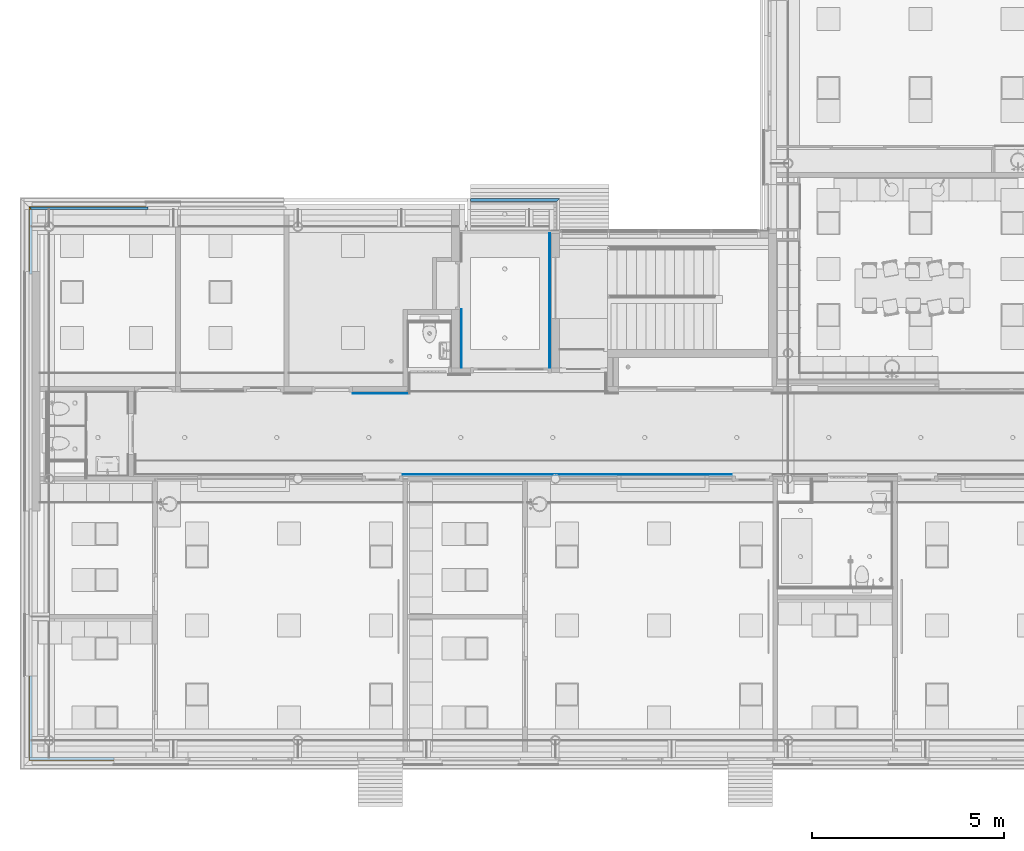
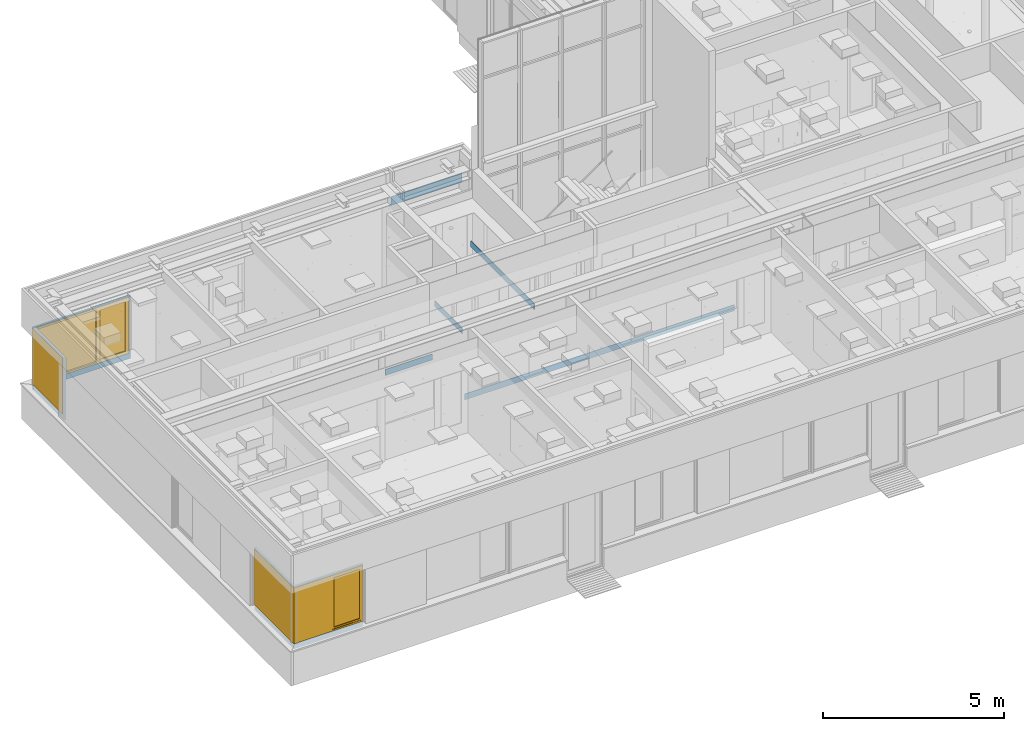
# One storey, part 24 of 347: 5 beams, 4 windows, 1 member, 4 openings, plus 3 elements that do not belong to this part.
"""IFC2X3 building model written with IfcOpenShell, lengths in millimetres."""

import ifcopenshell
import ifcopenshell.guid

model = None  # the IFC model being written
_history = None  # IfcOwnerHistory: only IFC2X3 demands one
_inside = {}  # id of a spatial element -> (the spatial element, [elements in it])
_under = {}  # id of a project, library or spatial element -> (it, [spatial elements below it])
_declared = {}  # id of a project -> (the project, [libraries it declares])
_typed = {}  # id of a type object -> (the type object, [elements of that type])
_made_of = {}  # id of a material, layer set ... -> (it, [elements and type objects made of it])


def new_model(schema):
    """Start an empty IFC model of exactly this schema.

    Asked for "IFC4X3", IfcOpenShell would pick the latest addendum, in which some entities
    have other attributes; the version numbers below select the first issue.
    IFC2X3 requires an IfcOwnerHistory on every rooted entity: one is made here for all.
    """
    global model, _history
    if schema == "IFC4X3":
        model = ifcopenshell.file(schema_version=(4, 3, 0, 0))
    else:
        model = ifcopenshell.file(schema=schema)
    _inside.clear()
    _under.clear()
    _declared.clear()
    _typed.clear()
    _made_of.clear()
    _history = None
    if model.schema == "IFC2X3":
        org = make("IfcOrganization", Name="unknown")
        user = make(
            "IfcPersonAndOrganization",
            ThePerson=make("IfcPerson", FamilyName="unknown"),
            TheOrganization=org,
        )
        app = make(
            "IfcApplication",
            ApplicationDeveloper=org,
            Version="unknown",
            ApplicationFullName="unknown",
            ApplicationIdentifier="unknown",
        )
        _history = make(
            "IfcOwnerHistory",
            OwningUser=user,
            OwningApplication=app,
            ChangeAction="ADDED",
            CreationDate=0,
        )
    return model


def make(cls, **values):
    """One entity of the class cls with the attributes given. An attribute that is None is left unset."""
    return model.create_entity(
        cls, **{name: value for name, value in values.items() if value is not None}
    )


def entity(cls, *values):
    """Any entity or typed value of the class cls, its attributes in the order of the schema. None: left unset."""
    e = model.create_entity(cls)
    for i, value in enumerate(values):
        if value is not None:
            e[i] = value
    return e


def rooted(cls, **values):
    """An entity with a GlobalId (a new one), such as an element, a storey or a relation."""
    return make(cls, GlobalId=ifcopenshell.guid.new(), OwnerHistory=_history, **values)


def si_unit(unit_type, name, prefix=None):
    """IfcSIUnit, for example si_unit("LENGTHUNIT", "METRE", prefix="MILLI")."""
    return make("IfcSIUnit", UnitType=unit_type, Prefix=prefix, Name=name)


def converted_unit(unit_type, name, factor, base, dimensions=None, offset=None):
    """IfcConversionBasedUnit, such as the inch: factor (a typed value) times the base unit."""
    return make(
        "IfcConversionBasedUnit"
        if offset is None
        else "IfcConversionBasedUnitWithOffset",
        ConversionOffset=offset,
        Dimensions=None
        if dimensions is None
        else entity("IfcDimensionalExponents", *dimensions),
        UnitType=unit_type,
        Name=name,
        ConversionFactor=make(
            "IfcMeasureWithUnit", ValueComponent=factor, UnitComponent=base
        ),
    )


def derived_unit(unit_type, elements):
    """IfcDerivedUnit: a product of units, each with its exponent."""
    return make(
        "IfcDerivedUnit",
        Elements=[
            make("IfcDerivedUnitElement", Unit=unit, Exponent=power)
            for unit, power in elements
        ],
        UnitType=unit_type,
    )


def money_unit(currency):
    """IfcMonetaryUnit."""
    return make("IfcMonetaryUnit", Currency=currency)


def assignment(units):
    """IfcUnitAssignment: the units of a project."""
    return None if units is None else make("IfcUnitAssignment", Units=units)


def point(xyz):
    """IfcCartesianPoint."""
    return None if xyz is None else make("IfcCartesianPoint", Coordinates=xyz)


def direction(xyz):
    """IfcDirection."""
    return None if xyz is None else make("IfcDirection", DirectionRatios=xyz)


def frame(location, z_axis=None, x_axis=None):
    """IfcAxis2Placement3D, a coordinate frame: its origin and axes. An axis left out is left unset."""
    return make(
        "IfcAxis2Placement3D",
        Location=point(location),
        Axis=direction(z_axis),
        RefDirection=direction(x_axis),
    )


def origin_with_axes():
    """The frame at (0, 0, 0) with the z axis (0, 0, 1) and the x axis (1, 0, 0) written out."""
    return frame((0.0, 0.0, 0.0), z_axis=(0.0, 0.0, 1.0), x_axis=(1.0, 0.0, 0.0))


def place(relative_to, where):
    """IfcLocalPlacement: puts the frame where relative to a parent placement (None: the world)."""
    return make(
        "IfcLocalPlacement", PlacementRelTo=relative_to, RelativePlacement=where
    )


def context(
    kind, dimensions, precision=None, world=None, true_north=None, identifier=None
):
    """IfcGeometricRepresentationContext, for example the 3D "Model" context."""
    return make(
        "IfcGeometricRepresentationContext",
        ContextIdentifier=identifier,
        ContextType=kind,
        CoordinateSpaceDimension=dimensions,
        Precision=precision,
        WorldCoordinateSystem=world,
        TrueNorth=true_north,
    )


def subcontext(parent, identifier, kind, view, scale=None):
    """IfcGeometricRepresentationSubContext, for example "Body" below "Model"."""
    return make(
        "IfcGeometricRepresentationSubContext",
        ContextIdentifier=identifier,
        ContextType=kind,
        ParentContext=parent,
        TargetScale=scale,
        TargetView=view,
    )


def project(units=None, contexts=None):
    """IfcProject with its units and contexts."""
    return rooted(
        "IfcProject",
        Name="project",
        RepresentationContexts=contexts,
        UnitsInContext=assignment(units),
    )


def spatial(cls, under=None, at=None, **own):
    """A site, building, storey or space (cls), placed at a placement, below another one or the project."""
    s = rooted(cls, ObjectPlacement=at, **own)
    if under is not None:
        _under.setdefault(under.id(), (under, []))[1].append(s)
    return s


def faces_of(points, faces, orient=None, outer=None):
    """IfcFace entities. A face is a list of loops; a loop is a list of indices into points, from 0.

    orient and outer hold one flag for each loop. By default every Orientation is true, the
    first loop of a face is its IfcFaceOuterBound and the others are IfcFaceBound.
    """
    made = []
    for i, loops in enumerate(faces):
        bounds = []
        for j, loop in enumerate(loops):
            is_outer = j == 0 if outer is None else outer[i][j]
            bounds.append(
                make(
                    "IfcFaceOuterBound" if is_outer else "IfcFaceBound",
                    Bound=make("IfcPolyLoop", Polygon=[points[k] for k in loop]),
                    Orientation=True if orient is None else orient[i][j],
                )
            )
        made.append(make("IfcFace", Bounds=bounds))
    return made


def open_shell(faces, orient=None, outer=None):
    """The faces of one IfcOpenShell. surface_model builds it on its shared points."""
    return ("IfcOpenShell", faces, orient, outer)


def faceted_brep(points, faces, orient=None, outer=None, voids=None):
    """IfcFacetedBrep: a solid bounded by flat faces; with voids (closed shells), ...WithVoids."""
    shared = [point(p) for p in points]
    hull = make("IfcClosedShell", CfsFaces=faces_of(shared, faces, orient, outer))
    if voids is None:
        return make("IfcFacetedBrep", Outer=hull)
    return make(
        "IfcFacetedBrepWithVoids",
        Outer=hull,
        Voids=[
            make(cls, CfsFaces=faces_of(shared, fs, o, b)) for cls, fs, o, b in voids
        ],
    )


def surface_model(cls, points, shells):
    """IfcFaceBasedSurfaceModel or IfcShellBasedSurfaceModel (cls): surfaces that need not close."""
    shared = [point(p) for p in points]
    made = [make(c, CfsFaces=faces_of(shared, fs, o, b)) for c, fs, o, b in shells]
    if cls == "IfcFaceBasedSurfaceModel":
        return make(cls, FbsmFaces=made)
    return make(cls, SbsmBoundary=made)


def shape(context_of_items, identifier, shape_type, items):
    """IfcShapeRepresentation: the items that make up one representation, for example the "Body"."""
    return make(
        "IfcShapeRepresentation",
        ContextOfItems=context_of_items,
        RepresentationIdentifier=identifier,
        RepresentationType=shape_type,
        Items=items,
    )


def material(Name=None, Category=None):
    """IfcMaterial."""
    return make("IfcMaterial", Name=Name, Category=Category)


def made_of(thing, what):
    """Note that an element or type object is made of a material, layer set ...; save() writes the relation."""
    if what is not None:
        _made_of.setdefault(what.id(), (what, []))[1].append(thing)
    return thing


def type_object(cls, material=None, **own):
    """A type object (cls), such as IfcWallType, which elements share."""
    return made_of(rooted(cls, **own), material)


def element(
    cls,
    number,
    at=None,
    inside=None,
    cuts=None,
    type_object=None,
    material=None,
    context=None,
    identifier="Body",
    shape_type=None,
    held_by="IfcProductDefinitionShape",
    body=None,
    shapes=None,
    **own,
):
    """One element of the class cls, such as IfcWall. Its Tag is "e" and its number.

    at: its placement. inside: the storey or other place that contains it. cuts: it is an
    opening in that element (IfcRelVoidsElement). A single representation is given by context,
    identifier, shape_type and body (its items); several are given by shapes. held_by: the class
    of the entity that holds the representations. save() writes the other relations.
    """
    e = rooted(cls, Tag="e%d" % number, ObjectPlacement=at, **own)
    if body is not None:
        shapes = [shape(context, identifier, shape_type, body)]
    if shapes is not None:
        e.Representation = make(held_by, Representations=shapes)
    if inside is not None:
        _inside.setdefault(inside.id(), (inside, []))[1].append(e)
    if cuts is not None:
        rooted(
            "IfcRelVoidsElement", RelatingBuildingElement=cuts, RelatedOpeningElement=e
        )
    if type_object is not None:
        _typed.setdefault(type_object.id(), (type_object, []))[1].append(e)
    return made_of(e, material)


def fill(opening, filler):
    """IfcRelFillsElement: the door or window that sits in an opening."""
    return rooted(
        "IfcRelFillsElement",
        RelatingOpeningElement=opening,
        RelatedBuildingElement=filler,
    )


def aggregate(whole, parts):
    """IfcRelAggregates: a whole, such as a stair, and the parts it consists of."""
    return rooted("IfcRelAggregates", RelatingObject=whole, RelatedObjects=parts)


def save(model, path):
    """Write the relations noted so far, then the file.

    IfcRelAggregates (storeys below a building ...), IfcRelContainedInSpatialStructure (elements
    in a storey), IfcRelDefinesByType, IfcRelAssociatesMaterial and IfcRelDeclares: one each for
    every whole, place, type object, material and project.
    """
    for whole, parts in _under.values():
        aggregate(whole, parts)
    for where, things in _inside.values():
        rooted(
            "IfcRelContainedInSpatialStructure",
            RelatedElements=things,
            RelatingStructure=where,
        )
    for kind, things in _typed.values():
        rooted("IfcRelDefinesByType", RelatedObjects=things, RelatingType=kind)
    for what, things in _made_of.values():
        rooted("IfcRelAssociatesMaterial", RelatedObjects=things, RelatingMaterial=what)
    for by, libraries in _declared.values():
        rooted("IfcRelDeclares", RelatingContext=by, RelatedDefinitions=libraries)
    model.write(path)


model = new_model("IFC2X3")

# Units and contexts
model_context = context("Model", 3, precision=0.01, world=origin_with_axes(), true_north=direction((0.0, 1.0)))
plan_context = context("Plan", 3, precision=0.01, world=origin_with_axes(), true_north=direction((0.0, 1.0)))
body_context = subcontext(model_context, "Body", "Model", "MODEL_VIEW")
ifc_project = project(units=[si_unit("LENGTHUNIT", "METRE", prefix="MILLI"), si_unit("AREAUNIT", "SQUARE_METRE"), si_unit("VOLUMEUNIT", "CUBIC_METRE"), converted_unit("PLANEANGLEUNIT", "DEGREE", entity("IfcPlaneAngleMeasure", 0.0174532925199), si_unit("PLANEANGLEUNIT", "RADIAN"), dimensions=[0, 0, 0, 0, 0, 0, 0]), money_unit("EUR"), converted_unit("TIMEUNIT", "Year", entity("IfcTimeMeasure", 31556926.0), si_unit("TIMEUNIT", "SECOND"), dimensions=[0, 0, 1, 0, 0, 0, 0]), si_unit("MASSUNIT", "GRAM", prefix="KILO"), si_unit("THERMODYNAMICTEMPERATUREUNIT", "DEGREE_CELSIUS"), si_unit("LUMINOUSINTENSITYUNIT", "LUMEN"), si_unit("ENERGYUNIT", "JOULE", prefix="MEGA"), derived_unit("THERMALCONDUCTANCEUNIT", [(si_unit("POWERUNIT", "WATT"), 1), (si_unit("LENGTHUNIT", "METRE"), -1), (si_unit("THERMODYNAMICTEMPERATUREUNIT", "KELVIN"), -1)]), derived_unit("SPECIFICHEATCAPACITYUNIT", [(si_unit("ENERGYUNIT", "JOULE"), 1), (si_unit("MASSUNIT", "GRAM", prefix="KILO"), -1), (si_unit("THERMODYNAMICTEMPERATUREUNIT", "KELVIN"), -1)]), derived_unit("MASSDENSITYUNIT", [(si_unit("MASSUNIT", "GRAM", prefix="KILO"), 1), (si_unit("VOLUMEUNIT", "CUBIC_METRE"), -1)])], contexts=[model_context, plan_context])

# Site, building, storey
site_placement = place(None, origin_with_axes())
site = spatial("IfcSite", under=ifc_project, at=site_placement, Name="Site", CompositionType="ELEMENT")
building_placement = place(site_placement, origin_with_axes())
building = spatial("IfcBuilding", under=site, at=building_placement, Name="Naam gebouw", CompositionType="ELEMENT")
storey_placement = place(building_placement, origin_with_axes())
storey = spatial("IfcBuildingStorey", under=building, at=storey_placement, Name="begane grond", CompositionType="ELEMENT", Elevation=0.0)

# Member, opening, window
ifc_material_1 = material(Name="31 pui/kozijn")
member_type = type_object("IfcMemberType", Name="31 pui/kozijn 62", PredefinedType="MEMBER")
member_1_placement = place(storey_placement, frame((4850.0, 19150.0, 535.00000231), z_axis=(0.0, 0.0, 1.0), x_axis=(1.0, -2.403218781e-09, 0.0)))
member_1 = element("IfcMember", 1, at=member_1_placement, inside=storey, type_object=member_type, material=ifc_material_1, Name="21_31 buitenkozijn pui", ObjectType="MEMBER", context=body_context, shape_type="Brep", body=[
    faceted_brep([(-62.0, 61.999999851, 184.99999769), (2975.00271353, 62.0000071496, 184.99999769), (2975.00271353, 62.0000071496, 2064.99999769), (-62.0, 61.999999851, 2064.99999769), (-62.000000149, 61.999999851, 2100.0), (3024.99999985, 62.0000072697, 2100.0), (3024.99999985, 62.0000072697, 0.0), (-62.000000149, 61.999999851, 0.0), (0.0, 0.0, 184.99999769), (2975.00271367, 7.1495804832e-06, 184.99999769), (-62.0, -1.49000811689e-07, 184.99999769), (2975.00271367, 7.1495804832e-06, 2064.99999769), (0.0, 0.0, 2064.99999769), (-62.0, -1.49000811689e-07, 2064.99999769), (-62.0, -1.49000811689e-07, 2100.0), (3025.0, 7.26973681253e-06, 2100.0), (3025.0, 7.26973681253e-06, 0.0), (-62.0, -1.49000811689e-07, 0.0)], [[[0, 1, 2, 3, 4, 5, 6, 7]], [[8, 9, 1, 0, 10]], [[2, 1, 9, 11]], [[3, 2, 11, 12, 13]], [[3, 13, 14, 4]], [[4, 14, 15, 5]], [[15, 16, 6, 5]], [[17, 7, 6, 16]], [[10, 0, 7, 17]], [[9, 8, 10, 17, 16, 15, 14, 13, 12, 11]]]),
])
opening_1_placement = place(member_1_placement, frame((1487.50135684, 0.0, 184.99999769), z_axis=(0.0, 0.0, 1.0), x_axis=(1.0, 0.0, 0.0)))
opening_1 = element("IfcOpeningElement", 2, at=opening_1_placement, cuts=member_1, Name="31_merk-AH1", context=body_context, shape_type="Brep", body=[
    faceted_brep([(1487.50135652, 134.000003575, 0.0), (1487.50135652, 134.000003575, 1880.0), (1487.50135699, -61.9999964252, 1880.0), (1487.50135699, -61.9999964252, 0.0), (-1549.50135716, 133.999996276, 0.0), (-1549.50135716, 133.999996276, 1880.0), (-1549.50135699, 62.0, 1880.0), (-1425.50135326, -62.0000034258, 1880.0), (-1425.50135326, -62.0000034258, 0.0), (-1549.50135699, 62.0, 0.0)], [[[0, 1, 2, 3]], [[0, 4, 5, 1]], [[1, 5, 6, 7, 2]], [[3, 2, 7, 8]], [[4, 0, 3, 8, 9]], [[5, 4, 9, 6]], [[7, 6, 9, 8]]]),
])
window_style_1 = type_object("IfcWindowStyle", Name="Rnx horizontaal 25", ConstructionType="NOTDEFINED", OperationType="DOUBLE_PANEL_VERTICAL", ParameterTakesPrecedence=False, Sizeable=False)
window_1_placement = place(opening_1_placement, frame((1487.50135684, 0.0, 0.0), z_axis=(0.0, 0.0, 1.0), x_axis=(-1.0, 0.0, 0.0)))
window_1 = element("IfcWindow", 3, at=window_1_placement, inside=storey, type_object=window_style_1, Name="31_merk-AH1", ObjectType="WINDOW", OverallHeight=1880.0, OverallWidth=2975.0, context=body_context, shape_type="SurfaceModel", body=[
    faceted_brep([(54.000000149, -62.0000070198, 1826.0), (39.000000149, -62.0000070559, 1826.0), (39.0, -7.05585634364e-06, 1826.0), (0.0, -7.1495804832e-06, 1826.0), (1.73031367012e-07, -72.0000071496, 1826.0), (54.000000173, -72.0000070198, 1826.0), (54.000000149, -62.0000070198, 54.0), (39.000000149, -62.0000070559, 54.0), (39.0, -7.05585634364e-06, 54.0), (0.0, -7.1495804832e-06, 54.0), (1.73031367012e-07, -72.0000071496, 54.0), (54.000000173, -72.0000070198, 54.0)], [[[0, 1, 2, 3, 4, 5]], [[1, 0, 6, 7]], [[8, 2, 1, 7]], [[2, 8, 9, 3]], [[9, 10, 4, 3]], [[10, 11, 5, 4]], [[6, 0, 5, 11]], [[7, 6, 11, 10, 9, 8]]]),
    faceted_brep([(988.002713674, -4.77519535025e-06, 1826.0), (988.002713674, -4.77519535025e-06, 1841.0), (39.0, -7.05585634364e-06, 1841.0), (39.0, -7.05585634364e-06, 1826.0), (0.0, -7.1495804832e-06, 1826.0), (0.0, -7.1495804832e-06, 1880.0), (2975.00271367, 0.0, 1880.0), (2975.00271367, 0.0, 1826.0), (2926.00271367, -1.17758247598e-07, 1826.0), (1027.00271367, -4.68147121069e-06, 1826.0), (988.002713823, -62.0000047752, 1826.0), (988.002713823, -62.0000047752, 1841.0), (39.000000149, -62.0000070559, 1841.0), (39.000000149, -62.0000070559, 1826.0), (54.000000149, -62.0000070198, 1826.0), (54.000000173, -72.0000070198, 1826.0), (1.73031367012e-07, -72.0000071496, 1826.0), (1.73031367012e-07, -72.0000071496, 1880.0), (3047.00271385, -71.999999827, 1880.0), (3047.00271385, -71.999999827, 1826.0), (2926.00271385, -72.0000001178, 1826.0), (1027.00271385, -72.0000046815, 1826.0), (973.002713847, -72.0000048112, 1826.0), (973.002713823, -62.0000048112, 1826.0)], [[[0, 1, 2, 3, 4, 5, 6, 7, 8, 9]], [[1, 0, 10, 11]], [[2, 1, 11, 12]], [[3, 2, 12, 13]], [[13, 14, 15, 16, 4, 3]], [[4, 16, 17, 5]], [[5, 17, 18, 6]], [[7, 6, 18, 19]], [[19, 20, 8, 7]], [[8, 20, 21, 9]], [[10, 0, 9, 21, 22, 23]], [[14, 13, 12, 11, 10, 23]], [[14, 23, 22, 15]], [[16, 15, 22, 21, 20, 19, 18, 17]]]),
    faceted_brep([(54.000000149, -62.0000070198, 54.0), (39.000000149, -62.0000070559, 54.0), (39.0, -7.05585634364e-06, 54.0), (0.0, -7.1495804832e-06, 54.0), (1.73031367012e-07, -72.0000071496, 54.0), (54.000000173, -72.0000070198, 54.0), (973.002713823, -62.0000048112, 54.0), (988.002713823, -62.0000047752, 54.0), (988.002713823, -62.0000047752, 39.0), (39.000000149, -62.0000070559, 39.0), (39.0, -7.05585634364e-06, 39.0), (988.002713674, -4.77519535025e-06, 39.0), (988.002713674, -4.77519535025e-06, 54.0), (1027.00271367, -4.68147121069e-06, 54.0), (2926.00271367, -1.17758247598e-07, 54.0), (2975.00271367, 0.0, 54.0), (2975.00271367, 0.0, 0.0), (0.0, -7.1495804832e-06, 0.0), (1.73031367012e-07, -72.0000071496, 0.0), (1027.00271385, -72.0000046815, 54.0), (973.002713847, -72.0000048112, 54.0), (3047.00271385, -71.999999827, 0.0), (3047.00271385, -71.999999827, 54.0), (2926.00271385, -72.0000001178, 54.0)], [[[0, 1, 2, 3, 4, 5]], [[1, 0, 6, 7, 8, 9]], [[10, 2, 1, 9]], [[11, 12, 13, 14, 15, 16, 17, 3, 2, 10]], [[17, 18, 4, 3]], [[19, 20, 5, 4, 18, 21, 22, 23]], [[6, 0, 5, 20]], [[7, 6, 20, 19, 13, 12]], [[7, 12, 11, 8]], [[11, 10, 9, 8]], [[13, 19, 23, 14]], [[14, 23, 22, 15]], [[16, 15, 22, 21]], [[21, 18, 17, 16]]]),
    faceted_brep([(988.002713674, -4.77519535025e-06, 1826.0), (988.002713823, -62.0000047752, 1826.0), (973.002713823, -62.0000048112, 1826.0), (973.002713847, -72.0000048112, 1826.0), (1027.00271385, -72.0000046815, 1826.0), (1027.00271367, -4.68147121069e-06, 1826.0), (988.002713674, -4.77519535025e-06, 54.0), (988.002713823, -62.0000047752, 54.0), (973.002713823, -62.0000048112, 54.0), (973.002713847, -72.0000048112, 54.0), (1027.00271385, -72.0000046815, 54.0), (1027.00271367, -4.68147121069e-06, 54.0)], [[[0, 1, 2, 3, 4, 5]], [[1, 0, 6, 7]], [[8, 2, 1, 7]], [[2, 8, 9, 3]], [[3, 9, 10, 4]], [[5, 4, 10, 11]], [[6, 0, 5, 11]], [[7, 6, 11, 10, 9, 8]]]),
    faceted_brep([(2926.00271385, -72.0000001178, 54.0), (2926.00271385, -72.0000001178, 1826.0), (2926.00271367, -1.17758247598e-07, 1826.0), (2926.00271367, -1.17758247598e-07, 54.0), (3047.00271385, -71.999999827, 54.0), (3047.00271385, -71.999999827, 1826.0), (2975.00271367, 0.0, 1826.0), (2975.00271367, 0.0, 54.0)], [[[0, 1, 2, 3]], [[1, 0, 4, 5]], [[6, 2, 1, 5]], [[2, 6, 7, 3]], [[4, 0, 3, 7]], [[7, 6, 5, 4]]]),
    surface_model("IfcShellBasedSurfaceModel", [(2926.00271385, -72.0000001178, 54.0), (2926.00271385, -72.0000001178, 1826.0), (1027.00271385, -72.0000046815, 1826.0), (1027.00271385, -72.0000046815, 54.0)], [open_shell([[[0, 1, 2, 3]]])]),
    surface_model("IfcShellBasedSurfaceModel", [(2926.0027138, -52.0000001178, 54.0), (1027.0027138, -52.0000046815, 54.0), (1027.0027138, -52.0000046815, 1826.0), (2926.0027138, -52.0000001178, 1826.0)], [open_shell([[[0, 1, 2, 3]]])]),
    faceted_brep([(920.002713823, -62.0000049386, 1773.0), (988.002713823, -62.0000047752, 1773.0), (988.002713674, -4.77519535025e-06, 1773.0), (920.002713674, -4.93861307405e-06, 1773.0), (920.002713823, -62.0000049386, 107.0), (988.002713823, -62.0000047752, 107.0), (988.002713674, -4.77519535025e-06, 107.0), (920.002713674, -4.93861307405e-06, 107.0)], [[[0, 1, 2, 3]], [[0, 4, 5, 1]], [[1, 5, 6, 2]], [[3, 2, 6, 7]], [[4, 0, 3, 7]], [[5, 4, 7, 6]]]),
    faceted_brep([(107.000000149, -62.0000068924, 107.0), (39.000000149, -62.0000070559, 107.0), (39.0, -7.05585634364e-06, 107.0), (107.0, -6.89243861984e-06, 107.0), (107.000000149, -62.0000068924, 1773.0), (39.000000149, -62.0000070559, 1773.0), (39.0, -7.05585634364e-06, 1773.0), (107.0, -6.89243861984e-06, 1773.0)], [[[0, 1, 2, 3]], [[0, 4, 5, 1]], [[1, 5, 6, 2]], [[3, 2, 6, 7]], [[4, 0, 3, 7]], [[5, 4, 7, 6]]]),
    faceted_brep([(39.000000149, -62.0000070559, 39.0), (39.000000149, -62.0000070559, 107.0), (39.0, -7.05585634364e-06, 107.0), (39.0, -7.05585634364e-06, 39.0), (988.002713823, -62.0000047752, 39.0), (988.002713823, -62.0000047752, 107.0), (920.002713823, -62.0000049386, 107.0), (107.000000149, -62.0000068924, 107.0), (107.0, -6.89243861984e-06, 107.0), (920.002713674, -4.93861307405e-06, 107.0), (988.002713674, -4.77519535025e-06, 107.0), (988.002713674, -4.77519535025e-06, 39.0)], [[[0, 1, 2, 3]], [[0, 4, 5, 6, 7, 1]], [[1, 7, 8, 2]], [[3, 2, 8, 9, 10, 11]], [[4, 0, 3, 11]], [[5, 4, 11, 10]], [[6, 5, 10, 9]], [[7, 6, 9, 8]]]),
    faceted_brep([(988.002713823, -62.0000047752, 1841.0), (988.002713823, -62.0000047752, 1773.0), (988.002713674, -4.77519535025e-06, 1773.0), (988.002713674, -4.77519535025e-06, 1841.0), (39.000000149, -62.0000070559, 1841.0), (39.000000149, -62.0000070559, 1773.0), (107.000000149, -62.0000068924, 1773.0), (920.002713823, -62.0000049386, 1773.0), (920.002713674, -4.93861307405e-06, 1773.0), (107.0, -6.89243861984e-06, 1773.0), (39.0, -7.05585634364e-06, 1773.0), (39.0, -7.05585634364e-06, 1841.0)], [[[0, 1, 2, 3]], [[0, 4, 5, 6, 7, 1]], [[1, 7, 8, 2]], [[3, 2, 8, 9, 10, 11]], [[4, 0, 3, 11]], [[5, 4, 11, 10]], [[6, 5, 10, 9]], [[7, 6, 9, 8]]]),
    surface_model("IfcShellBasedSurfaceModel", [(920.002713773, -41.0000049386, 107.0), (920.002713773, -41.0000049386, 1773.0), (107.000000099, -41.0000068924, 1773.0), (107.000000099, -41.0000068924, 107.0)], [open_shell([[[0, 1, 2, 3]]])]),
    surface_model("IfcShellBasedSurfaceModel", [(920.002713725, -21.0000049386, 107.0), (107.00000005, -21.0000068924, 107.0), (107.00000005, -21.0000068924, 1773.0), (920.002713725, -21.0000049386, 1773.0)], [open_shell([[[0, 1, 2, 3]]])]),
])
fill(opening_1, window_1)

member_2_placement = place(storey_placement, frame((4850.0, 19150.0, 535.00000231), z_axis=(0.0, 0.0, 1.0), x_axis=(0.0, -1.0, 0.0)))
member_2 = element("IfcMember", 4, at=member_2_placement, inside=storey, type_object=member_type, material=ifc_material_1, Name="21_31 buitenkozijn pui", ObjectType="MEMBER", context=body_context, shape_type="Brep", body=[
    faceted_brep([(1625.00000335, 0.0, 184.99999769), (1625.00000335, 0.0, 2064.99999769), (0.0, 0.0, 2064.99999769), (0.0, 0.0, 2100.0), (1687.00000335, 0.0, 2100.0), (1687.00000335, 0.0, 0.0), (0.0, 0.0, 0.0), (0.0, 0.0, 184.99999769), (1625.00000335, -62.0, 184.99999769), (1625.00000335, -62.0, 2064.99999769), (-1.49000811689e-07, -62.0, 2064.99999769), (-1.49000811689e-07, -62.0, 2100.0), (1687.00000335, -62.0, 2100.0), (1687.00000335, -62.0, 0.0), (-1.49000811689e-07, -62.0, 0.0), (-1.49000811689e-07, -62.0, 184.99999769)], [[[0, 1, 2, 3, 4, 5, 6, 7]], [[1, 0, 8, 9]], [[10, 2, 1, 9]], [[2, 10, 11, 3]], [[3, 11, 12, 4]], [[5, 4, 12, 13]], [[14, 6, 5, 13]], [[15, 7, 6, 14]], [[0, 7, 15, 8]], [[8, 15, 14, 13, 12, 11, 10, 9]]]),
])
opening_2_placement = place(member_2_placement, frame((812.500001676, 0.0, 184.99999769), z_axis=(0.0, 0.0, 1.0), x_axis=(1.0, 0.0, 0.0)))
opening_2 = element("IfcOpeningElement", 5, at=opening_2_placement, cuts=member_2, Name="31_merk-AH2", context=body_context, shape_type="Brep", body=[
    faceted_brep([(-874.500001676, -134.0, 0.0), (-874.500001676, -134.0, 1880.0), (-874.500001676, -61.999999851, 1880.0), (-874.500001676, -61.999999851, 0.0), (812.500001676, -134.0, 0.0), (812.500001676, -134.0, 1880.0), (812.500001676, 62.0, 1880.0), (-750.500001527, 62.0, 1880.0), (-750.500001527, 62.0, 0.0), (812.500001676, 62.0, 0.0)], [[[0, 1, 2, 3]], [[0, 4, 5, 1]], [[1, 5, 6, 7, 2]], [[7, 8, 3, 2]], [[4, 0, 3, 8, 9]], [[5, 4, 9, 6]], [[7, 6, 9, 8]]]),
])
window_style_2 = type_object("IfcWindowStyle", Name="R1 25", ConstructionType="NOTDEFINED", OperationType="SINGLE_PANEL", ParameterTakesPrecedence=False, Sizeable=False)
window_2_placement = place(opening_2_placement, frame((-812.500001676, 0.0, 0.0), z_axis=(0.0, 0.0, 1.0), x_axis=(1.0, 0.0, 0.0)))
window_2 = element("IfcWindow", 6, at=window_2_placement, inside=storey, type_object=window_style_2, Name="31_merk-AH2", ObjectType="WINDOW", OverallHeight=1880.0, OverallWidth=1625.0, context=body_context, shape_type="SurfaceModel", body=[
    faceted_brep([(1571.00000335, -72.0, 1826.0), (1625.00000335, -72.0, 1826.0), (1625.00000335, 0.0, 1826.0), (1571.00000335, 0.0, 1826.0), (1571.00000335, -72.0, 54.0), (1625.00000335, -72.0, 54.0), (1625.00000335, 0.0, 54.0), (1571.00000335, 0.0, 54.0)], [[[0, 1, 2, 3]], [[0, 4, 5, 1]], [[1, 5, 6, 2]], [[3, 2, 6, 7]], [[4, 0, 3, 7]], [[5, 4, 7, 6]]]),
    faceted_brep([(-72.0, -72.0, 1826.0), (-72.0, -72.0, 54.0), (49.0, -72.0, 54.0), (49.0, -72.0, 1826.0), (0.0, 0.0, 1826.0), (0.0, 0.0, 54.0), (49.0, 0.0, 54.0), (49.0, 0.0, 1826.0)], [[[0, 1, 2, 3]], [[1, 0, 4, 5]], [[1, 5, 6, 2]], [[3, 2, 6, 7]], [[4, 0, 3, 7]], [[6, 5, 4, 7]]]),
    faceted_brep([(0.0, 0.0, 0.0), (-72.0, -72.0, 0.0), (-72.0, -72.0, 54.0), (0.0, 0.0, 54.0), (1625.00000335, 0.0, 0.0), (1625.00000335, -72.0, 0.0), (1625.00000335, -72.0, 54.0), (1571.00000335, -72.0, 54.0), (49.0, -72.0, 54.0), (49.0, 0.0, 54.0), (1571.00000335, 0.0, 54.0), (1625.00000335, 0.0, 54.0)], [[[0, 1, 2, 3]], [[1, 0, 4, 5]], [[2, 1, 5, 6, 7, 8]], [[9, 3, 2, 8]], [[0, 3, 9, 10, 11, 4]], [[6, 5, 4, 11]], [[7, 6, 11, 10]], [[8, 7, 10, 9]]]),
    faceted_brep([(0.0, 0.0, 1826.0), (49.0, 0.0, 1826.0), (49.0, -72.0, 1826.0), (-72.0, -72.0, 1826.0), (0.0, 0.0, 1880.0), (1625.00000335, 0.0, 1880.0), (1625.00000335, 0.0, 1826.0), (1571.00000335, 0.0, 1826.0), (1571.00000335, -72.0, 1826.0), (1625.00000335, -72.0, 1826.0), (1625.00000335, -72.0, 1880.0), (-72.0, -72.0, 1880.0)], [[[0, 1, 2, 3]], [[1, 0, 4, 5, 6, 7]], [[8, 2, 1, 7]], [[3, 2, 8, 9, 10, 11]], [[0, 3, 11, 4]], [[4, 11, 10, 5]], [[10, 9, 6, 5]], [[8, 7, 6, 9]]]),
    surface_model("IfcShellBasedSurfaceModel", [(1571.00000335, -72.0, 54.0), (1571.00000335, -72.0, 1826.0), (49.0, -72.0, 1826.0), (49.0, -72.0, 54.0)], [open_shell([[[0, 1, 2, 3]]])]),
    surface_model("IfcShellBasedSurfaceModel", [(1571.00000335, -52.0, 54.0), (49.0, -52.0, 54.0), (49.0, -52.0, 1826.0), (1571.00000335, -52.0, 1826.0)], [open_shell([[[0, 1, 2, 3]]])]),
])
fill(opening_2, window_2)

member_3_placement = place(storey_placement, frame((4850.0, 4850.0, 535.00000231), z_axis=(0.0, 0.0, 1.0), x_axis=(1.0, 0.0, 0.0)))
member_3 = element("IfcMember", 7, at=member_3_placement, inside=storey, type_object=member_type, material=ifc_material_1, Name="21_31 buitenkozijn pui", ObjectType="MEMBER", context=body_context, shape_type="Brep", body=[
    faceted_brep([(0.0, 0.0, 184.99999769), (2138.0, 0.0, 184.99999769), (2138.0, 0.0, 0.0), (-62.0, 0.0, 0.0), (-62.0, 0.0, 184.99999769), (-62.0, -62.0, 184.99999769), (2138.0, -62.0, 184.99999769), (2138.0, -62.0, 0.0), (-62.0, -62.0, 0.0)], [[[0, 1, 2, 3, 4]], [[5, 6, 1, 0, 4]], [[1, 6, 7, 2]], [[8, 3, 2, 7]], [[5, 4, 3, 8]], [[6, 5, 8, 7]]]),
    faceted_brep([(2138.0, -62.0, 2064.99999769), (2138.0, 0.0, 2064.99999769), (2138.0, 0.0, 2100.0), (2138.0, -62.0, 2100.0), (0.0, 0.0, 2064.99999769), (-62.0, -62.0, 2064.99999769), (-62.0, 0.0, 2064.99999769), (-62.0, 0.0, 2100.0), (-62.0, -62.0, 2100.0)], [[[0, 1, 2, 3]], [[4, 1, 0, 5, 6]], [[1, 4, 6, 7, 2]], [[7, 8, 3, 2]], [[5, 0, 3, 8]], [[6, 5, 8, 7]]]),
])
opening_3_placement = place(member_3_placement, frame((1069.0, 0.0, 184.99999769), z_axis=(0.0, 0.0, 1.0), x_axis=(1.0, 0.0, 0.0)))
opening_3 = element("IfcOpeningElement", 8, at=opening_3_placement, cuts=member_3, Name="31_merk-AE2", context=body_context, shape_type="Brep", body=[
    faceted_brep([(1069.0, 62.0, 0.0), (1069.0, 62.0, 1880.0), (1069.0, -134.0, 1880.0), (1069.0, -134.0, 0.0), (-1007.0, 62.0, 0.0), (-1007.0, 62.0, 1880.0), (-1131.0, -62.0, 1880.0), (-1131.0, -134.0, 1880.0), (-1131.0, -134.0, 0.0), (-1131.0, -62.0, 0.0)], [[[0, 1, 2, 3]], [[0, 4, 5, 1]], [[1, 5, 6, 7, 2]], [[3, 2, 7, 8]], [[4, 0, 3, 8, 9]], [[5, 4, 9, 6]], [[9, 8, 7, 6]]]),
])
window_style_3 = type_object("IfcWindowStyle", Name="Rnx horizontaal 25", ConstructionType="NOTDEFINED", OperationType="DOUBLE_PANEL_VERTICAL", ParameterTakesPrecedence=False, Sizeable=False)
window_3_placement = place(opening_3_placement, frame((-1069.0, 0.0, 0.0), z_axis=(0.0, 0.0, 1.0), x_axis=(1.0, 0.0, 0.0)))
window_3 = element("IfcWindow", 9, at=window_3_placement, inside=storey, type_object=window_style_3, Name="31_merk-AE2", ObjectType="WINDOW", OverallHeight=1880.0, OverallWidth=2138.0, context=body_context, shape_type="SurfaceModel", body=[
    faceted_brep([(2084.0, -62.0, 1826.0), (2084.0, -72.0, 1826.0), (2138.0, -72.0, 1826.0), (2138.0, 0.0, 1826.0), (2099.0, 0.0, 1826.0), (2099.0, -62.0, 1826.0), (2084.0, -62.0, 54.0), (2084.0, -72.0, 54.0), (2138.0, -72.0, 54.0), (2138.0, 0.0, 54.0), (2099.0, 0.0, 54.0), (2099.0, -62.0, 54.0)], [[[0, 1, 2, 3, 4, 5]], [[6, 7, 1, 0]], [[8, 2, 1, 7]], [[9, 3, 2, 8]], [[4, 3, 9, 10]], [[10, 11, 5, 4]], [[5, 11, 6, 0]], [[11, 10, 9, 8, 7, 6]]]),
    faceted_brep([(1150.0, 0.0, 1826.0), (1111.0, 0.0, 1826.0), (49.0, 0.0, 1826.0), (0.0, 0.0, 1826.0), (0.0, 0.0, 1880.0), (2138.0, 0.0, 1880.0), (2138.0, 0.0, 1826.0), (2099.0, 0.0, 1826.0), (2099.0, 0.0, 1841.0), (1150.0, 0.0, 1841.0), (1150.0, -62.0, 1826.0), (1165.0, -62.0, 1826.0), (1165.0, -72.0, 1826.0), (1111.0, -72.0, 1826.0), (49.0, -72.0, 1826.0), (-72.0, -72.0, 1826.0), (-72.0, -72.0, 1880.0), (2138.0, -72.0, 1880.0), (2138.0, -72.0, 1826.0), (2099.0, -62.0, 1826.0), (2084.0, -72.0, 1826.0), (2084.0, -62.0, 1826.0), (2099.0, -62.0, 1841.0), (1150.0, -62.0, 1841.0)], [[[0, 1, 2, 3, 4, 5, 6, 7, 8, 9]], [[10, 11, 12, 13, 1, 0]], [[2, 1, 13, 14]], [[15, 3, 2, 14]], [[3, 15, 16, 4]], [[5, 4, 16, 17]], [[6, 5, 17, 18]], [[19, 7, 6, 18, 20, 21]], [[7, 19, 22, 8]], [[8, 22, 23, 9]], [[9, 23, 10, 0]], [[21, 11, 10, 23, 22, 19]], [[21, 20, 12, 11]], [[18, 17, 16, 15, 14, 13, 12, 20]]]),
    faceted_brep([(2084.0, -62.0, 54.0), (2084.0, -72.0, 54.0), (2138.0, -72.0, 54.0), (2138.0, 0.0, 54.0), (2099.0, 0.0, 54.0), (2099.0, -62.0, 54.0), (1165.0, -62.0, 54.0), (1165.0, -72.0, 54.0), (1111.0, -72.0, 54.0), (49.0, -72.0, 54.0), (-72.0, -72.0, 54.0), (-72.0, -72.0, 0.0), (2138.0, -72.0, 0.0), (2138.0, 0.0, 0.0), (1150.0, 0.0, 39.0), (2099.0, 0.0, 39.0), (0.0, 0.0, 0.0), (0.0, 0.0, 54.0), (49.0, 0.0, 54.0), (1111.0, 0.0, 54.0), (1150.0, 0.0, 54.0), (2099.0, -62.0, 39.0), (1150.0, -62.0, 39.0), (1150.0, -62.0, 54.0)], [[[0, 1, 2, 3, 4, 5]], [[6, 7, 1, 0]], [[8, 9, 10, 11, 12, 2, 1, 7]], [[13, 3, 2, 12]], [[14, 15, 4, 3, 13, 16, 17, 18, 19, 20]], [[15, 21, 5, 4]], [[5, 21, 22, 23, 6, 0]], [[23, 20, 19, 8, 7, 6]], [[19, 18, 9, 8]], [[18, 17, 10, 9]], [[16, 11, 10, 17]], [[11, 16, 13, 12]], [[14, 22, 21, 15]], [[23, 22, 14, 20]]]),
    faceted_brep([(1150.0, 0.0, 1826.0), (1111.0, 0.0, 1826.0), (1111.0, -72.0, 1826.0), (1165.0, -72.0, 1826.0), (1165.0, -62.0, 1826.0), (1150.0, -62.0, 1826.0), (1150.0, 0.0, 54.0), (1111.0, 0.0, 54.0), (1111.0, -72.0, 54.0), (1165.0, -72.0, 54.0), (1165.0, -62.0, 54.0), (1150.0, -62.0, 54.0)], [[[0, 1, 2, 3, 4, 5]], [[6, 7, 1, 0]], [[1, 7, 8, 2]], [[3, 2, 8, 9]], [[4, 3, 9, 10]], [[10, 11, 5, 4]], [[5, 11, 6, 0]], [[11, 10, 9, 8, 7, 6]]]),
    faceted_brep([(-72.0, -72.0, 1826.0), (-72.0, -72.0, 54.0), (49.0, -72.0, 54.0), (49.0, -72.0, 1826.0), (0.0, 0.0, 1826.0), (0.0, 0.0, 54.0), (49.0, 0.0, 54.0), (49.0, 0.0, 1826.0)], [[[0, 1, 2, 3]], [[1, 0, 4, 5]], [[1, 5, 6, 2]], [[3, 2, 6, 7]], [[4, 0, 3, 7]], [[4, 7, 6, 5]]]),
    surface_model("IfcShellBasedSurfaceModel", [(49.0, -72.0, 54.0), (1111.0, -72.0, 54.0), (1111.0, -72.0, 1826.0), (49.0, -72.0, 1826.0)], [open_shell([[[0, 1, 2, 3]]])]),
    surface_model("IfcShellBasedSurfaceModel", [(49.0, -52.0, 54.0), (49.0, -52.0, 1826.0), (1111.0, -52.0, 1826.0), (1111.0, -52.0, 54.0)], [open_shell([[[0, 1, 2, 3]]])]),
    faceted_brep([(1218.0, -62.0, 1773.0), (1218.0, 0.0, 1773.0), (1150.0, 0.0, 1773.0), (1150.0, -62.0, 1773.0), (1218.0, -62.0, 107.0), (1218.0, 0.0, 107.0), (1150.0, 0.0, 107.0), (1150.0, -62.0, 107.0)], [[[0, 1, 2, 3]], [[4, 5, 1, 0]], [[1, 5, 6, 2]], [[3, 2, 6, 7]], [[0, 3, 7, 4]], [[7, 6, 5, 4]]]),
    faceted_brep([(2031.0, -62.0, 107.0), (2031.0, 0.0, 107.0), (2099.0, 0.0, 107.0), (2099.0, -62.0, 107.0), (2031.0, -62.0, 1773.0), (2031.0, 0.0, 1773.0), (2099.0, 0.0, 1773.0), (2099.0, -62.0, 1773.0)], [[[0, 1, 2, 3]], [[4, 5, 1, 0]], [[1, 5, 6, 2]], [[3, 2, 6, 7]], [[0, 3, 7, 4]], [[7, 6, 5, 4]]]),
    faceted_brep([(2099.0, -62.0, 39.0), (2099.0, 0.0, 39.0), (2099.0, 0.0, 107.0), (2099.0, -62.0, 107.0), (1150.0, -62.0, 39.0), (1150.0, 0.0, 39.0), (1150.0, 0.0, 107.0), (1218.0, 0.0, 107.0), (2031.0, 0.0, 107.0), (2031.0, -62.0, 107.0), (1218.0, -62.0, 107.0), (1150.0, -62.0, 107.0)], [[[0, 1, 2, 3]], [[4, 5, 1, 0]], [[1, 5, 6, 7, 8, 2]], [[3, 2, 8, 9]], [[0, 3, 9, 10, 11, 4]], [[11, 6, 5, 4]], [[10, 7, 6, 11]], [[9, 8, 7, 10]]]),
    faceted_brep([(1150.0, -62.0, 1841.0), (1150.0, 0.0, 1841.0), (1150.0, 0.0, 1773.0), (1150.0, -62.0, 1773.0), (2099.0, -62.0, 1841.0), (2099.0, 0.0, 1841.0), (2099.0, 0.0, 1773.0), (2031.0, 0.0, 1773.0), (1218.0, 0.0, 1773.0), (1218.0, -62.0, 1773.0), (2031.0, -62.0, 1773.0), (2099.0, -62.0, 1773.0)], [[[0, 1, 2, 3]], [[4, 5, 1, 0]], [[1, 5, 6, 7, 8, 2]], [[3, 2, 8, 9]], [[0, 3, 9, 10, 11, 4]], [[11, 6, 5, 4]], [[10, 7, 6, 11]], [[9, 8, 7, 10]]]),
    surface_model("IfcShellBasedSurfaceModel", [(1218.0, -41.0, 107.0), (2031.0, -41.0, 107.0), (2031.0, -41.0, 1773.0), (1218.0, -41.0, 1773.0)], [open_shell([[[0, 1, 2, 3]]])]),
    surface_model("IfcShellBasedSurfaceModel", [(1218.0, -21.0, 107.0), (1218.0, -21.0, 1773.0), (2031.0, -21.0, 1773.0), (2031.0, -21.0, 107.0)], [open_shell([[[0, 1, 2, 3]]])]),
])
fill(opening_3, window_3)

member_4_placement = place(storey_placement, frame((4850.0, 4850.0, 535.00000231), z_axis=(0.0, 0.0, 1.0), x_axis=(0.0, 1.0, 0.0)))
member_4 = element("IfcMember", 10, at=member_4_placement, inside=storey, type_object=member_type, material=ifc_material_1, Name="21_31 buitenkozijn pui", ObjectType="MEMBER", context=body_context, shape_type="Brep", body=[
    faceted_brep([(2125.00002887, 62.0, 184.99999769), (2125.00002887, 0.0, 184.99999769), (2125.00002887, 0.0, 0.0), (2125.00002887, 62.0, 0.0), (0.0, 0.0, 184.99999769), (0.0, 62.0, 184.99999769), (0.0, 0.0, 0.0), (0.0, 62.0, 0.0)], [[[0, 1, 2, 3]], [[4, 1, 0, 5]], [[1, 4, 6, 2]], [[6, 7, 3, 2]], [[5, 0, 3, 7]], [[4, 5, 7, 6]]]),
    faceted_brep([(0.0, 0.0, 2064.99999769), (2125.00002887, 0.0, 2064.99999769), (2125.00002887, 0.0, 2100.0), (0.0, 0.0, 2100.0), (2125.00002887, 62.0, 2064.99999769), (0.0, 62.0, 2064.99999769), (2125.00002887, 62.0, 2100.0), (0.0, 62.0, 2100.0)], [[[0, 1, 2, 3]], [[4, 1, 0, 5]], [[1, 4, 6, 2]], [[7, 3, 2, 6]], [[5, 0, 3, 7]], [[4, 5, 7, 6]]]),
])
opening_4_placement = place(member_4_placement, frame((1062.50001444, 0.0, 184.99999769), z_axis=(0.0, 0.0, 1.0), x_axis=(1.0, 0.0, 0.0)))
opening_4 = element("IfcOpeningElement", 11, at=opening_4_placement, cuts=member_4, Name="31_merk-AE1", context=body_context, shape_type="Brep", body=[
    faceted_brep([(-1124.50001444, 62.0, 1880.0), (-1124.50001444, 134.0, 1880.0), (-1124.50001444, 134.0, 0.0), (-1124.50001444, 62.0, 0.0), (-1000.50001444, -62.0, 1880.0), (1062.50001444, -62.0, 1880.0), (1062.50001444, 134.0, 1880.0), (1062.50001444, 134.0, 0.0), (1062.50001444, -62.0, 0.0), (-1000.50001444, -62.0, 0.0)], [[[0, 1, 2, 3]], [[4, 5, 6, 1, 0]], [[2, 1, 6, 7]], [[8, 9, 3, 2, 7]], [[4, 0, 3, 9]], [[9, 8, 5, 4]], [[5, 8, 7, 6]]]),
])
window_4_placement = place(opening_4_placement, frame((1062.50001444, 0.0, 0.0), z_axis=(0.0, 0.0, 1.0), x_axis=(-1.0, 0.0, 0.0)))
window_4 = element("IfcWindow", 12, at=window_4_placement, inside=storey, type_object=window_style_2, Name="31_merk-AE1", ObjectType="WINDOW", OverallHeight=1880.0, OverallWidth=2125.0, context=body_context, shape_type="SurfaceModel", body=[
    faceted_brep([(54.0, -72.0, 1826.0), (54.0, 0.0, 1826.0), (0.0, 0.0, 1826.0), (0.0, -72.0, 1826.0), (54.0, -72.0, 54.0), (54.0, 0.0, 54.0), (0.0, 0.0, 54.0), (0.0, -72.0, 54.0)], [[[0, 1, 2, 3]], [[4, 5, 1, 0]], [[1, 5, 6, 2]], [[3, 2, 6, 7]], [[0, 3, 7, 4]], [[7, 6, 5, 4]]]),
    faceted_brep([(2076.00002887, -72.0, 54.0), (2076.00002887, -72.0, 1826.0), (2076.00002887, 0.0, 1826.0), (2076.00002887, 0.0, 54.0), (2197.00002887, -72.0, 54.0), (2197.00002887, -72.0, 1826.0), (2125.00002887, 0.0, 1826.0), (2125.00002887, 0.0, 54.0)], [[[0, 1, 2, 3]], [[1, 0, 4, 5]], [[1, 5, 6, 2]], [[7, 3, 2, 6]], [[3, 7, 4, 0]], [[7, 6, 5, 4]]]),
    faceted_brep([(54.0, 0.0, 54.0), (0.0, 0.0, 54.0), (0.0, -72.0, 54.0), (54.0, -72.0, 54.0), (0.0, 0.0, 0.0), (2076.00002887, 0.0, 54.0), (2125.00002887, 0.0, 54.0), (2125.00002887, 0.0, 0.0), (0.0, -72.0, 0.0), (2197.00002887, -72.0, 0.0), (2197.00002887, -72.0, 54.0), (2076.00002887, -72.0, 54.0)], [[[0, 1, 2, 3]], [[4, 1, 0, 5, 6, 7]], [[4, 8, 2, 1]], [[2, 8, 9, 10, 11, 3]], [[3, 11, 5, 0]], [[6, 5, 11, 10]], [[9, 7, 6, 10]], [[8, 4, 7, 9]]]),
    faceted_brep([(0.0, 0.0, 1826.0), (54.0, 0.0, 1826.0), (54.0, -72.0, 1826.0), (0.0, -72.0, 1826.0), (0.0, 0.0, 1880.0), (2125.00002887, 0.0, 1880.0), (2125.00002887, 0.0, 1826.0), (2076.00002887, 0.0, 1826.0), (2076.00002887, -72.0, 1826.0), (2197.00002887, -72.0, 1826.0), (2197.00002887, -72.0, 1880.0), (0.0, -72.0, 1880.0)], [[[0, 1, 2, 3]], [[1, 0, 4, 5, 6, 7]], [[8, 2, 1, 7]], [[3, 2, 8, 9, 10, 11]], [[4, 0, 3, 11]], [[4, 11, 10, 5]], [[10, 9, 6, 5]], [[7, 6, 9, 8]]]),
    surface_model("IfcShellBasedSurfaceModel", [(54.0, -72.0, 54.0), (2076.00002887, -72.0, 54.0), (2076.00002887, -72.0, 1826.0), (54.0, -72.0, 1826.0)], [open_shell([[[0, 1, 2, 3]]])]),
    surface_model("IfcShellBasedSurfaceModel", [(54.0, -52.0, 54.0), (54.0, -52.0, 1826.0), (2076.00002887, -52.0, 1826.0), (2076.00002887, -52.0, 54.0)], [open_shell([[[0, 1, 2, 3]]])]),
])
fill(opening_4, window_4)

# Beams
ifc_material_2 = material(Name="Metaal - Staal C beige")
beam_type_1 = type_object("IfcBeamType", Name="21 geveldrager (3200+) 75 x 300", PredefinedType="LINTEL")
beam_1_placement = place(storey_placement, frame((16285.0000653, 19000.0, -600.0), z_axis=(0.0, 0.0, 1.0), x_axis=(0.0, -1.0, 0.0)))
element("IfcBeam", 13, at=beam_1_placement, inside=storey, type_object=beam_type_1, material=ifc_material_2, Name="21_21 geveldrager", ObjectType="LINTEL", context=body_context, shape_type="Brep", body=[
    faceted_brep([(-430.000000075, 0.0, 3200.0), (-430.000000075, 2329.99993481, 3200.0), (-354.999996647, 2254.99993138, 3200.0), (-354.999996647, 0.0, 3200.0), (-430.000000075, 0.0, 3204.99999881), (-430.000000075, 2329.99993481, 3204.99999881), (-360.0, 2259.99993473, 3204.99999881), (-360.0, 2259.99993473, 3500.00000119), (-354.999996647, 2254.99993138, 3500.00000119), (-354.999996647, 0.0, 3500.00000119), (-360.0, 0.0, 3500.00000119), (-360.0, 0.0, 3204.99999881)], [[[0, 1, 2, 3]], [[4, 5, 1, 0]], [[2, 1, 5, 6, 7, 8]], [[3, 2, 8, 9]], [[4, 0, 3, 9, 10, 11]], [[11, 6, 5, 4]], [[10, 7, 6, 11]], [[9, 8, 7, 10]]]),
])
ifc_material_3 = material(Name="Glas geleiding strook")
beam_type_2 = type_object("IfcBeamType", Name="42 geleiding strook 20 x 200", PredefinedType="BEAM")
beam_2_placement = place(storey_placement, frame((13214.0, 14400.0, 0.0), z_axis=(0.0, 0.0, 1.0), x_axis=(0.0, -1.0, 0.0)))
element("IfcBeam", 14, at=beam_2_placement, inside=storey, type_object=beam_type_2, material=ifc_material_3, Name="28_Balk-x", ObjectType="BEAM", context=body_context, shape_type="Brep", body=[
    faceted_brep([(40.0, 1476.0, 1200.0), (40.0, 1476.0, 1000.0), (40.0, 0.0, 1000.0), (40.0, 0.0, 1200.0), (60.0, 1496.0, 1200.0), (60.0, 1496.0, 1000.0), (60.0, 0.0, 1000.0), (60.0, 0.0, 1200.0)], [[[0, 1, 2, 3]], [[0, 4, 5, 1]], [[1, 5, 6, 2]], [[3, 2, 6, 7]], [[4, 0, 3, 7]], [[5, 4, 7, 6]]]),
])
beam_3_placement = place(storey_placement, frame((23111.0, 12187.5, 0.0), z_axis=(0.0, 0.0, 1.0), x_axis=(0.0, 1.0, 0.0)))
element("IfcBeam", 15, at=beam_3_placement, inside=storey, type_object=beam_type_2, material=ifc_material_3, Name="28_Balk-x", ObjectType="BEAM", context=body_context, shape_type="Brep", body=[
    faceted_brep([(40.0, 8586.0, 1200.0), (40.0, 8586.0, 1000.0), (40.0, 0.0, 1000.0), (40.0, 0.0, 1200.0), (60.0, 8586.0, 1200.0), (60.0, 8586.0, 1000.0), (60.0, 0.0, 1000.0), (60.0, 0.0, 1200.0)], [[[0, 1, 2, 3]], [[0, 4, 5, 1]], [[1, 5, 6, 2]], [[3, 2, 6, 7]], [[4, 0, 3, 7]], [[5, 4, 7, 6]]]),
])
beam_4_placement = place(storey_placement, frame((16005.0000433, 16540.0, 0.0), z_axis=(0.0, 0.0, 1.0), x_axis=(-1.0, 1.41948386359e-08, 0.0)))
element("IfcBeam", 16, at=beam_4_placement, inside=storey, type_object=beam_type_2, material=ifc_material_3, Name="28_Balk-x", ObjectType="BEAM", context=body_context, shape_type="Brep", body=[
    faceted_brep([(-60.0, 1524.99997284, 1200.0), (-60.0, 1524.99997284, 1000.0), (-60.0, 0.0, 1000.0), (-60.0, 0.0, 1200.0), (-40.0, 1524.99997284, 1200.0), (-40.0, 1524.99997284, 1000.0), (-40.0, 0.0, 1000.0), (-40.0, 0.0, 1200.0)], [[[0, 1, 2, 3]], [[0, 4, 5, 1]], [[1, 5, 6, 2]], [[3, 2, 6, 7]], [[4, 0, 3, 7]], [[5, 4, 7, 6]]]),
])
beam_5_placement = place(storey_placement, frame((18405.0, 18523.0, 0.0), z_axis=(0.0, 0.0, 1.0), x_axis=(-1.0, 0.0, 0.0)))
element("IfcBeam", 17, at=beam_5_placement, inside=storey, type_object=beam_type_2, material=ifc_material_3, Name="28_Balk-x", ObjectType="BEAM", context=body_context, shape_type="Brep", body=[
    faceted_brep([(40.0, 3501.0, 1200.0), (40.0, 3501.0, 1000.0), (40.0, 0.0, 1000.0), (40.0, 0.0, 1200.0), (60.0, 3501.0, 1200.0), (60.0, 3501.0, 1000.0), (60.0, 0.0, 1000.0), (60.0, 0.0, 1200.0)], [[[0, 1, 2, 3]], [[0, 4, 5, 1]], [[1, 5, 6, 2]], [[3, 2, 6, 7]], [[4, 0, 3, 7]], [[5, 4, 7, 6]]]),
])

save(model, "model.ifc")
